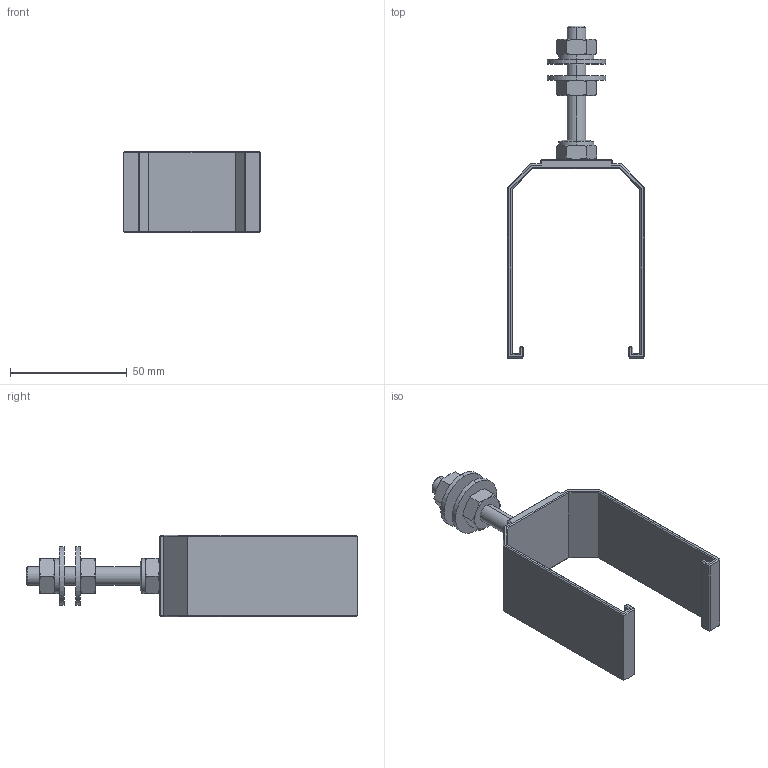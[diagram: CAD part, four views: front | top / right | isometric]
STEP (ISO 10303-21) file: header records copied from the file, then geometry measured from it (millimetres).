
FILE_DESCRIPTION (( 'STEP AP203' ), '1' );
FILE_NAME ('900.506.040.STEP', '2018-03-09T13:12:35', ( '' ), ( '' ), 'SwSTEP 2.0', 'SolidWorks 2016', '' );
FILE_SCHEMA (( 'CONFIG_CONTROL_DESIGN' ));
Length unit declared in the file: millimetre
Products named in the file (1): 900.506.040
Bounding box: 58.7 x 142 x 35 mm (x, y, z)
Volume: 25668.6 mm3; surface area: 20788.6 mm2
Topology: 1 solids, 1 shells, 180 faces, 383 edges, 212 vertices
Faces by surface type: plane 126, cone 38, cylinder 14, torus 2
Entity records: 4924 total; most frequent: CARTESIAN_POINT 1136, ORIENTED_EDGE 766, DIRECTION 737, EDGE_CURVE 383, VECTOR 247, LINE 247, AXIS2_PLACEMENT_3D 245, VERTEX_POINT 212
